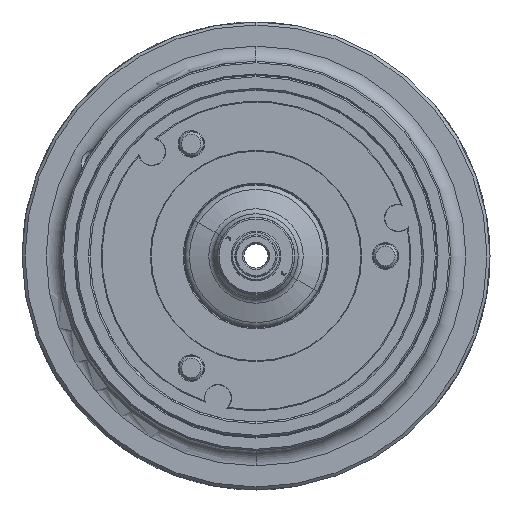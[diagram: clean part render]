
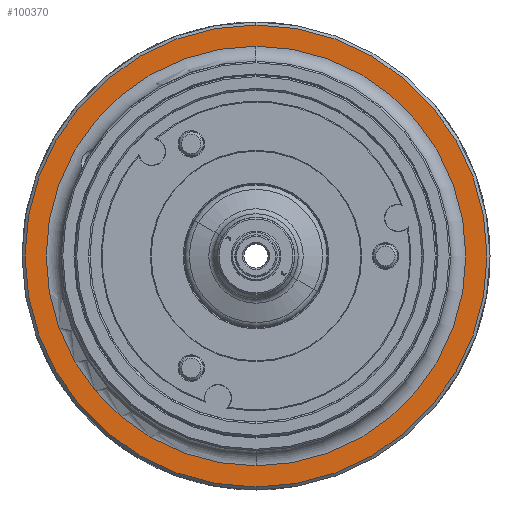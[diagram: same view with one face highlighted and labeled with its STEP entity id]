
A CAD part, left-side view. The second image highlights one B-rep face of the part: STEP entity #100370.
In plain terms, the highlighted planar face has unit normal (-1, 0, 0).
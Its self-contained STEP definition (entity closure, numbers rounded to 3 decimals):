
#6896 = CARTESIAN_POINT ( 'NONE',  ( -29.5, 0., 0. ) ) ;
#11144 = PLANE ( 'NONE',  #44892 ) ;
#11189 = EDGE_CURVE ( 'NONE', #104737, #111784, #42959, .T. ) ;
#11603 = CARTESIAN_POINT ( 'NONE',  ( -29.5, 0., 139. ) ) ;
#11957 = ORIENTED_EDGE ( 'NONE', *, *, #54597, .F. ) ;
#14274 = CARTESIAN_POINT ( 'NONE',  ( -29.5, 0., 153. ) ) ;
#15048 = EDGE_LOOP ( 'NONE', ( #68077, #81667 ) ) ;
#16110 = AXIS2_PLACEMENT_3D ( 'NONE', #48188, #112016, #57404 ) ;
#16122 = DIRECTION ( 'NONE',  ( 0., 0., -1. ) ) ;
#17912 = EDGE_CURVE ( 'NONE', #111784, #104737, #92147, .T. ) ;
#20311 = DIRECTION ( 'NONE',  ( 0., 0., -1. ) ) ;
#23764 = CARTESIAN_POINT ( 'NONE',  ( -29.5, 0., 0. ) ) ;
#25818 = CARTESIAN_POINT ( 'NONE',  ( -29.5, 0., 0. ) ) ;
#34985 = DIRECTION ( 'NONE',  ( 0., 0., -1. ) ) ;
#35295 = CIRCLE ( 'NONE', #100760, 153. ) ;
#38674 = DIRECTION ( 'NONE',  ( 0., 0., -1. ) ) ;
#39945 = ORIENTED_EDGE ( 'NONE', *, *, #49038, .F. ) ;
#42959 = CIRCLE ( 'NONE', #71761, 139. ) ;
#44892 = AXIS2_PLACEMENT_3D ( 'NONE', #111372, #75129, #20311 ) ;
#45309 = EDGE_LOOP ( 'NONE', ( #39945, #11957 ) ) ;
#46086 = CARTESIAN_POINT ( 'NONE',  ( -29.5, 0., -139. ) ) ;
#48188 = CARTESIAN_POINT ( 'NONE',  ( -29.5, 0., 0. ) ) ;
#49038 = EDGE_CURVE ( 'NONE', #115604, #85424, #35295, .T. ) ;
#52705 = CARTESIAN_POINT ( 'NONE',  ( -29.5, 0., -153. ) ) ;
#53216 = FACE_OUTER_BOUND ( 'NONE', #45309, .T. ) ;
#54597 = EDGE_CURVE ( 'NONE', #85424, #115604, #60082, .T. ) ;
#56081 = FACE_BOUND ( 'NONE', #15048, .T. ) ;
#57404 = DIRECTION ( 'NONE',  ( 0., 0., -1. ) ) ;
#59847 = AXIS2_PLACEMENT_3D ( 'NONE', #25818, #89752, #34985 ) ;
#60082 = CIRCLE ( 'NONE', #16110, 153. ) ;
#68077 = ORIENTED_EDGE ( 'NONE', *, *, #17912, .T. ) ;
#70936 = DIRECTION ( 'NONE',  ( 1., 0., 0. ) ) ;
#71761 = AXIS2_PLACEMENT_3D ( 'NONE', #23764, #110263, #38674 ) ;
#75129 = DIRECTION ( 'NONE',  ( 1., 0., 0. ) ) ;
#81667 = ORIENTED_EDGE ( 'NONE', *, *, #11189, .T. ) ;
#85424 = VERTEX_POINT ( 'NONE', #14274 ) ;
#89752 = DIRECTION ( 'NONE',  ( 1., 0., 0. ) ) ;
#92147 = CIRCLE ( 'NONE', #59847, 139. ) ;
#100370 = ADVANCED_FACE ( 'NONE', ( #53216, #56081 ), #11144, .F. ) ;
#100760 = AXIS2_PLACEMENT_3D ( 'NONE', #6896, #70936, #16122 ) ;
#104737 = VERTEX_POINT ( 'NONE', #11603 ) ;
#110263 = DIRECTION ( 'NONE',  ( 1., 0., 0. ) ) ;
#111372 = CARTESIAN_POINT ( 'NONE',  ( -29.5, -139., 0. ) ) ;
#111784 = VERTEX_POINT ( 'NONE', #46086 ) ;
#112016 = DIRECTION ( 'NONE',  ( 1., 0., 0. ) ) ;
#115604 = VERTEX_POINT ( 'NONE', #52705 ) ;
